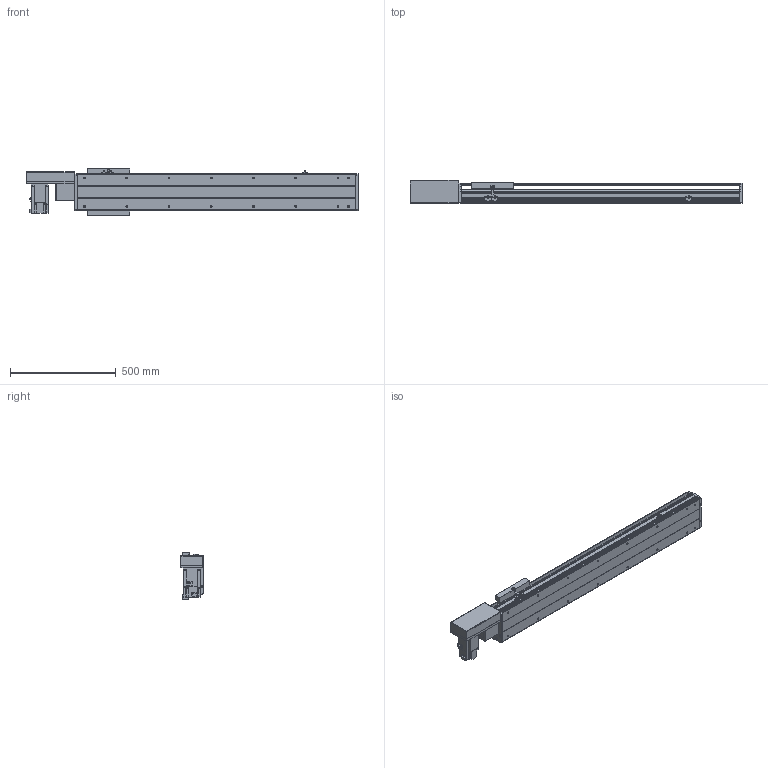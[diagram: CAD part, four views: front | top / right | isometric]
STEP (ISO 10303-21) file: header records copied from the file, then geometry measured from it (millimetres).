
FILE_DESCRIPTION(/* description */ ('STEP AP214'),/* implementation_level */ '2;1');
FILE_NAME(/* name */ 'PBS200-P40-S950-R-T75-C1-N(0)',/* time_stamp */ '2022-06-11T08:04:30+02:00',/* author */ ('License CC BY-ND 4.0'),/* organization */ ('CADENAS'),/* preprocessor_version */ 'ST-DEVELOPER v18.102',/* originating_system */ 'PARTsolutions',/* authorisation */ ' ');
FILE_SCHEMA (('AUTOMOTIVE_DESIGN {1 0 10303 214 3 1 1}'));
Length unit declared in the file: millimetre
Products named in the file (7): PBS200-P40-S950-R-T75-C1-N(0); PBS200_sensor; PBS200_plant; PBS200_sliser; T75-p1; PBS200T-R_motors; PBS200-S950()_body
Assembly tree (8 placements, depth 2):
  PBS200-P40-S950-R-T75-C1-N(0)
    PBS200_sensor  x3
    PBS200_plant
    PBS200_sliser
    T75-p1
    PBS200T-R_motors
    PBS200-S950()_body
Bounding box: 1572 x 109 x 221 mm (x, y, z)
Volume: 10924655.7 mm3; surface area: 1770559.3 mm2
Topology: 8 solids, 8 shells, 920 faces, 2374 edges, 1548 vertices
Faces by surface type: plane 574, cylinder 298, cone 48
Full cylindrical faces by diameter (mm): 2.459 x6, 3.242 x4, 4.5 x6, 4.917 x4, 5 x6, 6 x7, 6.6 x8, 6.647 x20, 8 x6, 10 x4, 12 x8, 38 x2, 40 x1, 70 x1
Entity records: 24581 total; most frequent: DIRECTION 4327, CARTESIAN_POINT 4192, ORIENTED_EDGE 3982, EDGE_CURVE 1991, AXIS2_PLACEMENT_3D 1507, VERTEX_POINT 1372, LINE 1313, VECTOR 1313
